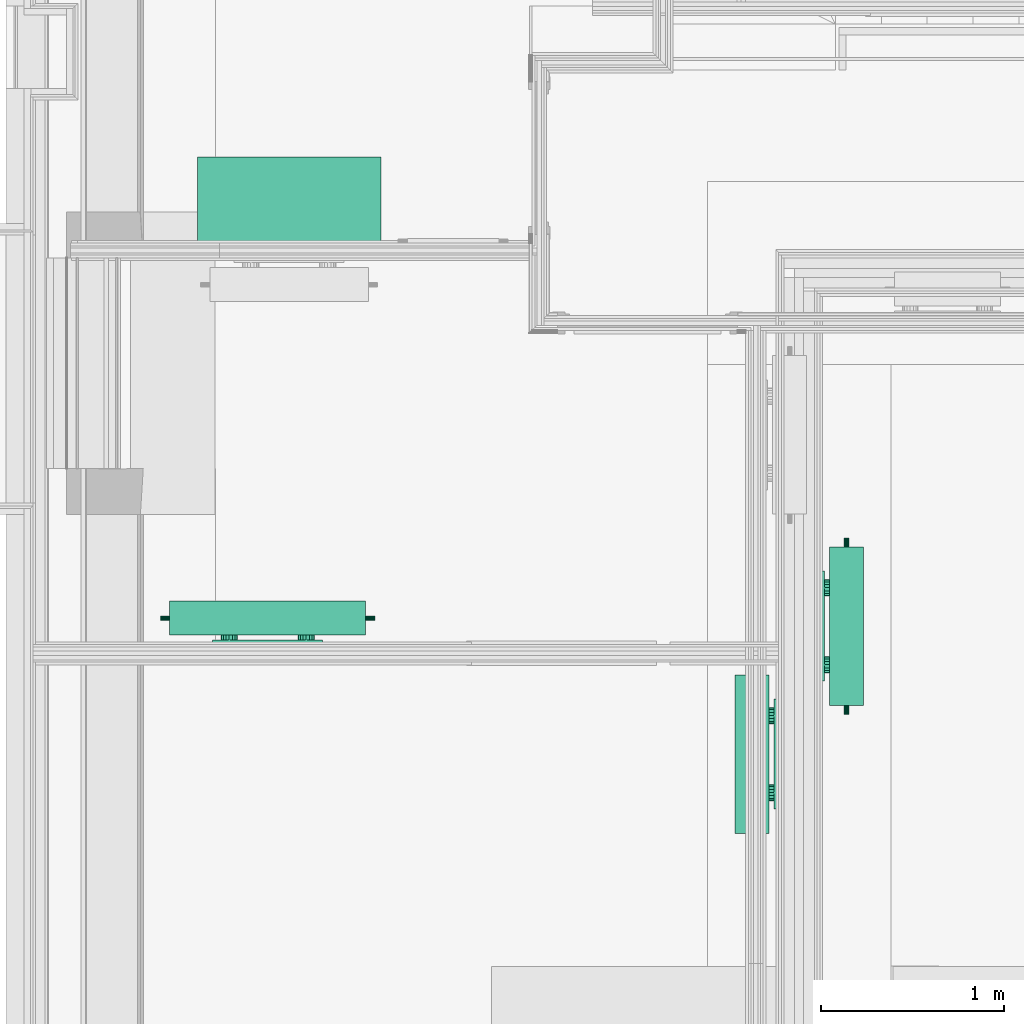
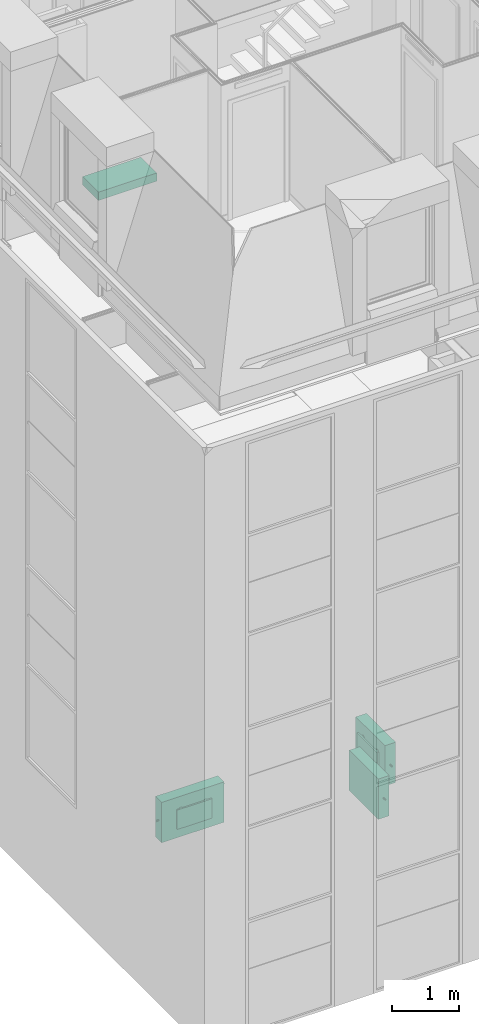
# One storey, part 143 of 169: 4 flow terminals.
"""IFC2X3 building model written with IfcOpenShell, lengths in metres."""

import ifcopenshell
import ifcopenshell.guid

model = None  # the IFC model being written
_history = None  # IfcOwnerHistory: only IFC2X3 demands one
_inside = {}  # id of a spatial element -> (the spatial element, [elements in it])
_under = {}  # id of a project, library or spatial element -> (it, [spatial elements below it])
_declared = {}  # id of a project -> (the project, [libraries it declares])
_typed = {}  # id of a type object -> (the type object, [elements of that type])
_made_of = {}  # id of a material, layer set ... -> (it, [elements and type objects made of it])


def new_model(schema):
    """Start an empty IFC model of exactly this schema.

    Asked for "IFC4X3", IfcOpenShell would pick the latest addendum, in which some entities
    have other attributes; the version numbers below select the first issue.
    IFC2X3 requires an IfcOwnerHistory on every rooted entity: one is made here for all.
    """
    global model, _history
    if schema == "IFC4X3":
        model = ifcopenshell.file(schema_version=(4, 3, 0, 0))
    else:
        model = ifcopenshell.file(schema=schema)
    _inside.clear()
    _under.clear()
    _declared.clear()
    _typed.clear()
    _made_of.clear()
    _history = None
    if model.schema == "IFC2X3":
        org = make("IfcOrganization", Name="unknown")
        user = make(
            "IfcPersonAndOrganization",
            ThePerson=make("IfcPerson", FamilyName="unknown"),
            TheOrganization=org,
        )
        app = make(
            "IfcApplication",
            ApplicationDeveloper=org,
            Version="unknown",
            ApplicationFullName="unknown",
            ApplicationIdentifier="unknown",
        )
        _history = make(
            "IfcOwnerHistory",
            OwningUser=user,
            OwningApplication=app,
            ChangeAction="ADDED",
            CreationDate=0,
        )
    return model


def make(cls, **values):
    """One entity of the class cls with the attributes given. An attribute that is None is left unset."""
    return model.create_entity(
        cls, **{name: value for name, value in values.items() if value is not None}
    )


def entity(cls, *values):
    """Any entity or typed value of the class cls, its attributes in the order of the schema. None: left unset."""
    e = model.create_entity(cls)
    for i, value in enumerate(values):
        if value is not None:
            e[i] = value
    return e


def rooted(cls, **values):
    """An entity with a GlobalId (a new one), such as an element, a storey or a relation."""
    return make(cls, GlobalId=ifcopenshell.guid.new(), OwnerHistory=_history, **values)


def si_unit(unit_type, name, prefix=None):
    """IfcSIUnit, for example si_unit("LENGTHUNIT", "METRE", prefix="MILLI")."""
    return make("IfcSIUnit", UnitType=unit_type, Prefix=prefix, Name=name)


def converted_unit(unit_type, name, factor, base, dimensions=None, offset=None):
    """IfcConversionBasedUnit, such as the inch: factor (a typed value) times the base unit."""
    return make(
        "IfcConversionBasedUnit"
        if offset is None
        else "IfcConversionBasedUnitWithOffset",
        ConversionOffset=offset,
        Dimensions=None
        if dimensions is None
        else entity("IfcDimensionalExponents", *dimensions),
        UnitType=unit_type,
        Name=name,
        ConversionFactor=make(
            "IfcMeasureWithUnit", ValueComponent=factor, UnitComponent=base
        ),
    )


def derived_unit(unit_type, elements):
    """IfcDerivedUnit: a product of units, each with its exponent."""
    return make(
        "IfcDerivedUnit",
        Elements=[
            make("IfcDerivedUnitElement", Unit=unit, Exponent=power)
            for unit, power in elements
        ],
        UnitType=unit_type,
    )


def money_unit(currency):
    """IfcMonetaryUnit."""
    return make("IfcMonetaryUnit", Currency=currency)


def assignment(units):
    """IfcUnitAssignment: the units of a project."""
    return None if units is None else make("IfcUnitAssignment", Units=units)


def point(xyz):
    """IfcCartesianPoint."""
    return None if xyz is None else make("IfcCartesianPoint", Coordinates=xyz)


def direction(xyz):
    """IfcDirection."""
    return None if xyz is None else make("IfcDirection", DirectionRatios=xyz)


def frame(location, z_axis=None, x_axis=None):
    """IfcAxis2Placement3D, a coordinate frame: its origin and axes. An axis left out is left unset."""
    return make(
        "IfcAxis2Placement3D",
        Location=point(location),
        Axis=direction(z_axis),
        RefDirection=direction(x_axis),
    )


def origin_with_axes():
    """The frame at (0, 0, 0) with the z axis (0, 0, 1) and the x axis (1, 0, 0) written out."""
    return frame((0.0, 0.0, 0.0), z_axis=(0.0, 0.0, 1.0), x_axis=(1.0, 0.0, 0.0))


def place(relative_to, where):
    """IfcLocalPlacement: puts the frame where relative to a parent placement (None: the world)."""
    return make(
        "IfcLocalPlacement", PlacementRelTo=relative_to, RelativePlacement=where
    )


def context(
    kind, dimensions, precision=None, world=None, true_north=None, identifier=None
):
    """IfcGeometricRepresentationContext, for example the 3D "Model" context."""
    return make(
        "IfcGeometricRepresentationContext",
        ContextIdentifier=identifier,
        ContextType=kind,
        CoordinateSpaceDimension=dimensions,
        Precision=precision,
        WorldCoordinateSystem=world,
        TrueNorth=true_north,
    )


def subcontext(parent, identifier, kind, view, scale=None):
    """IfcGeometricRepresentationSubContext, for example "Body" below "Model"."""
    return make(
        "IfcGeometricRepresentationSubContext",
        ContextIdentifier=identifier,
        ContextType=kind,
        ParentContext=parent,
        TargetScale=scale,
        TargetView=view,
    )


def project(units=None, contexts=None):
    """IfcProject with its units and contexts."""
    return rooted(
        "IfcProject",
        Name="project",
        RepresentationContexts=contexts,
        UnitsInContext=assignment(units),
    )


def spatial(cls, under=None, at=None, **own):
    """A site, building, storey or space (cls), placed at a placement, below another one or the project."""
    s = rooted(cls, ObjectPlacement=at, **own)
    if under is not None:
        _under.setdefault(under.id(), (under, []))[1].append(s)
    return s


def faces_of(points, faces, orient=None, outer=None):
    """IfcFace entities. A face is a list of loops; a loop is a list of indices into points, from 0.

    orient and outer hold one flag for each loop. By default every Orientation is true, the
    first loop of a face is its IfcFaceOuterBound and the others are IfcFaceBound.
    """
    made = []
    for i, loops in enumerate(faces):
        bounds = []
        for j, loop in enumerate(loops):
            is_outer = j == 0 if outer is None else outer[i][j]
            bounds.append(
                make(
                    "IfcFaceOuterBound" if is_outer else "IfcFaceBound",
                    Bound=make("IfcPolyLoop", Polygon=[points[k] for k in loop]),
                    Orientation=True if orient is None else orient[i][j],
                )
            )
        made.append(make("IfcFace", Bounds=bounds))
    return made


def open_shell(faces, orient=None, outer=None):
    """The faces of one IfcOpenShell. surface_model builds it on its shared points."""
    return ("IfcOpenShell", faces, orient, outer)


def faceted_brep(points, faces, orient=None, outer=None, voids=None):
    """IfcFacetedBrep: a solid bounded by flat faces; with voids (closed shells), ...WithVoids."""
    shared = [point(p) for p in points]
    hull = make("IfcClosedShell", CfsFaces=faces_of(shared, faces, orient, outer))
    if voids is None:
        return make("IfcFacetedBrep", Outer=hull)
    return make(
        "IfcFacetedBrepWithVoids",
        Outer=hull,
        Voids=[
            make(cls, CfsFaces=faces_of(shared, fs, o, b)) for cls, fs, o, b in voids
        ],
    )


def surface_model(cls, points, shells):
    """IfcFaceBasedSurfaceModel or IfcShellBasedSurfaceModel (cls): surfaces that need not close."""
    shared = [point(p) for p in points]
    made = [make(c, CfsFaces=faces_of(shared, fs, o, b)) for c, fs, o, b in shells]
    if cls == "IfcFaceBasedSurfaceModel":
        return make(cls, FbsmFaces=made)
    return make(cls, SbsmBoundary=made)


def shape(context_of_items, identifier, shape_type, items):
    """IfcShapeRepresentation: the items that make up one representation, for example the "Body"."""
    return make(
        "IfcShapeRepresentation",
        ContextOfItems=context_of_items,
        RepresentationIdentifier=identifier,
        RepresentationType=shape_type,
        Items=items,
    )


def material(Name=None, Category=None):
    """IfcMaterial."""
    return make("IfcMaterial", Name=Name, Category=Category)


def made_of(thing, what):
    """Note that an element or type object is made of a material, layer set ...; save() writes the relation."""
    if what is not None:
        _made_of.setdefault(what.id(), (what, []))[1].append(thing)
    return thing


def type_object(cls, material=None, **own):
    """A type object (cls), such as IfcWallType, which elements share."""
    return made_of(rooted(cls, **own), material)


def element(
    cls,
    number,
    at=None,
    inside=None,
    cuts=None,
    type_object=None,
    material=None,
    context=None,
    identifier="Body",
    shape_type=None,
    held_by="IfcProductDefinitionShape",
    body=None,
    shapes=None,
    **own,
):
    """One element of the class cls, such as IfcWall. Its Tag is "e" and its number.

    at: its placement. inside: the storey or other place that contains it. cuts: it is an
    opening in that element (IfcRelVoidsElement). A single representation is given by context,
    identifier, shape_type and body (its items); several are given by shapes. held_by: the class
    of the entity that holds the representations. save() writes the other relations.
    """
    e = rooted(cls, Tag="e%d" % number, ObjectPlacement=at, **own)
    if body is not None:
        shapes = [shape(context, identifier, shape_type, body)]
    if shapes is not None:
        e.Representation = make(held_by, Representations=shapes)
    if inside is not None:
        _inside.setdefault(inside.id(), (inside, []))[1].append(e)
    if cuts is not None:
        rooted(
            "IfcRelVoidsElement", RelatingBuildingElement=cuts, RelatedOpeningElement=e
        )
    if type_object is not None:
        _typed.setdefault(type_object.id(), (type_object, []))[1].append(e)
    return made_of(e, material)


def aggregate(whole, parts):
    """IfcRelAggregates: a whole, such as a stair, and the parts it consists of."""
    return rooted("IfcRelAggregates", RelatingObject=whole, RelatedObjects=parts)


def save(model, path):
    """Write the relations noted so far, then the file.

    IfcRelAggregates (storeys below a building ...), IfcRelContainedInSpatialStructure (elements
    in a storey), IfcRelDefinesByType, IfcRelAssociatesMaterial and IfcRelDeclares: one each for
    every whole, place, type object, material and project.
    """
    for whole, parts in _under.values():
        aggregate(whole, parts)
    for where, things in _inside.values():
        rooted(
            "IfcRelContainedInSpatialStructure",
            RelatedElements=things,
            RelatingStructure=where,
        )
    for kind, things in _typed.values():
        rooted("IfcRelDefinesByType", RelatedObjects=things, RelatingType=kind)
    for what, things in _made_of.values():
        rooted("IfcRelAssociatesMaterial", RelatedObjects=things, RelatingMaterial=what)
    for by, libraries in _declared.values():
        rooted("IfcRelDeclares", RelatingContext=by, RelatedDefinitions=libraries)
    model.write(path)


model = new_model("IFC2X3")

# Units and contexts
model_context = context("Model", 3, precision=1e-05, world=origin_with_axes(), true_north=direction((0.0, 1.0)))
body_context = subcontext(model_context, "Body", "Model", "MODEL_VIEW", scale=1.0)
ifc_project = project(units=[si_unit("LENGTHUNIT", "METRE"), si_unit("AREAUNIT", "SQUARE_METRE"), si_unit("VOLUMEUNIT", "CUBIC_METRE"), si_unit("ABSORBEDDOSEUNIT", "GRAY"), si_unit("AMOUNTOFSUBSTANCEUNIT", "MOLE"), si_unit("DOSEEQUIVALENTUNIT", "SIEVERT"), si_unit("ELECTRICCAPACITANCEUNIT", "FARAD"), si_unit("ELECTRICCHARGEUNIT", "COULOMB"), si_unit("ELECTRICCONDUCTANCEUNIT", "SIEMENS"), si_unit("ELECTRICCURRENTUNIT", "AMPERE"), si_unit("ELECTRICRESISTANCEUNIT", "OHM"), si_unit("ELECTRICVOLTAGEUNIT", "VOLT"), si_unit("ENERGYUNIT", "JOULE"), si_unit("FORCEUNIT", "NEWTON"), si_unit("FREQUENCYUNIT", "HERTZ"), si_unit("ILLUMINANCEUNIT", "LUX"), si_unit("INDUCTANCEUNIT", "HENRY"), si_unit("LUMINOUSFLUXUNIT", "LUMEN"), si_unit("LUMINOUSINTENSITYUNIT", "CANDELA"), si_unit("MAGNETICFLUXDENSITYUNIT", "TESLA"), si_unit("MAGNETICFLUXUNIT", "WEBER"), si_unit("MASSUNIT", "GRAM"), converted_unit("PLANEANGLEUNIT", "degree", entity("IfcReal", 0.0174532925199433), si_unit("PLANEANGLEUNIT", "RADIAN"), dimensions=[0, 0, 0, 0, 0, 0, 0]), si_unit("POWERUNIT", "WATT"), si_unit("PRESSUREUNIT", "PASCAL"), si_unit("RADIOACTIVITYUNIT", "BECQUEREL"), si_unit("SOLIDANGLEUNIT", "STERADIAN"), si_unit("THERMODYNAMICTEMPERATUREUNIT", "KELVIN"), si_unit("TIMEUNIT", "SECOND"), derived_unit("ACCELERATIONUNIT", [(si_unit("LENGTHUNIT", "METRE"), 1), (si_unit("TIMEUNIT", "SECOND"), -2)]), derived_unit("ANGULARVELOCITYUNIT", [(converted_unit("PLANEANGLEUNIT", "degree", entity("IfcReal", 0.0174532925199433), si_unit("PLANEANGLEUNIT", "RADIAN"), dimensions=[0, 0, 0, 0, 0, 0, 0]), 1), (si_unit("TIMEUNIT", "SECOND"), -1)]), derived_unit("CURVATUREUNIT", [(converted_unit("PLANEANGLEUNIT", "degree", entity("IfcReal", 0.0174532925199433), si_unit("PLANEANGLEUNIT", "RADIAN"), dimensions=[0, 0, 0, 0, 0, 0, 0]), 1), (si_unit("LENGTHUNIT", "METRE"), -1)]), derived_unit("DYNAMICVISCOSITYUNIT", [(si_unit("PRESSUREUNIT", "PASCAL"), 1), (si_unit("TIMEUNIT", "SECOND"), 1)]), derived_unit("HEATFLUXDENSITYUNIT", [(si_unit("POWERUNIT", "WATT"), 1), (si_unit("LENGTHUNIT", "METRE"), -2)]), derived_unit("HEATINGVALUEUNIT", [(si_unit("ENERGYUNIT", "JOULE"), 1), (si_unit("MASSUNIT", "GRAM"), -1)]), derived_unit("INTEGERCOUNTRATEUNIT", [(si_unit("TIMEUNIT", "SECOND"), -1)]), derived_unit("IONCONCENTRATIONUNIT", [(si_unit("MASSUNIT", "GRAM"), 1), (si_unit("VOLUMEUNIT", "CUBIC_METRE"), -1)]), derived_unit("ISOTHERMALMOISTURECAPACITYUNIT", [(si_unit("VOLUMEUNIT", "CUBIC_METRE"), 1), (si_unit("MASSUNIT", "GRAM"), -1)]), derived_unit("KINEMATICVISCOSITYUNIT", [(si_unit("AREAUNIT", "SQUARE_METRE"), 1), (si_unit("TIMEUNIT", "SECOND"), -1)]), derived_unit("LINEARFORCEUNIT", [(si_unit("FORCEUNIT", "NEWTON"), 1), (si_unit("LENGTHUNIT", "METRE"), -1)]), derived_unit("LINEARMOMENTUNIT", [(si_unit("FORCEUNIT", "NEWTON"), 1), (si_unit("LENGTHUNIT", "METRE"), -1)]), derived_unit("LINEARSTIFFNESSUNIT", [(si_unit("FORCEUNIT", "NEWTON"), 1), (si_unit("LENGTHUNIT", "METRE"), -1)]), derived_unit("LINEARVELOCITYUNIT", [(si_unit("LENGTHUNIT", "METRE"), 1), (si_unit("TIMEUNIT", "SECOND"), -1)]), derived_unit("LUMINOUSINTENSITYDISTRIBUTIONUNIT", [(si_unit("LUMINOUSINTENSITYUNIT", "CANDELA"), 1), (si_unit("LUMINOUSFLUXUNIT", "LUMEN"), -1)]), derived_unit("MASSDENSITYUNIT", [(si_unit("MASSUNIT", "GRAM"), 1), (si_unit("VOLUMEUNIT", "CUBIC_METRE"), -1)]), derived_unit("MASSFLOWRATEUNIT", [(si_unit("MASSUNIT", "GRAM"), 1), (si_unit("TIMEUNIT", "SECOND"), -1)]), derived_unit("MASSPERLENGTHUNIT", [(si_unit("MASSUNIT", "GRAM"), 1), (si_unit("LENGTHUNIT", "METRE"), -1)]), derived_unit("MODULUSOFELASTICITYUNIT", [(si_unit("FORCEUNIT", "NEWTON"), 1), (si_unit("AREAUNIT", "SQUARE_METRE"), -1)]), derived_unit("MODULUSOFLINEARSUBGRADEREACTIONUNIT", [(si_unit("FORCEUNIT", "NEWTON"), 1), (si_unit("LENGTHUNIT", "METRE"), -2)]), derived_unit("MODULUSOFROTATIONALSUBGRADEREACTIONUNIT", [(si_unit("FORCEUNIT", "NEWTON"), 1), (si_unit("LENGTHUNIT", "METRE"), 1)]), derived_unit("MODULUSOFSUBGRADEREACTIONUNIT", [(si_unit("FORCEUNIT", "NEWTON"), 1), (si_unit("VOLUMEUNIT", "CUBIC_METRE"), -1)]), derived_unit("MOISTUREDIFFUSIVITYUNIT", [(si_unit("VOLUMEUNIT", "CUBIC_METRE"), 1), (si_unit("TIMEUNIT", "SECOND"), -1)]), derived_unit("MOLECULARWEIGHTUNIT", [(si_unit("MASSUNIT", "GRAM"), 1), (si_unit("AMOUNTOFSUBSTANCEUNIT", "MOLE"), -1)]), derived_unit("PLANARFORCEUNIT", [(si_unit("FORCEUNIT", "NEWTON"), 1), (si_unit("LENGTHUNIT", "METRE"), -2)]), derived_unit("ROTATIONALFREQUENCYUNIT", [(si_unit("TIMEUNIT", "SECOND"), -1)]), derived_unit("ROTATIONALMASSUNIT", [(si_unit("MASSUNIT", "GRAM"), 1), (si_unit("LENGTHUNIT", "METRE"), 2)]), derived_unit("ROTATIONALSTIFFNESSUNIT", [(si_unit("FORCEUNIT", "NEWTON"), 1), (si_unit("LENGTHUNIT", "METRE"), 1), (converted_unit("PLANEANGLEUNIT", "degree", entity("IfcReal", 0.0174532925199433), si_unit("PLANEANGLEUNIT", "RADIAN"), dimensions=[0, 0, 0, 0, 0, 0, 0]), -1)]), derived_unit("SECTIONAREAINTEGRALUNIT", [(si_unit("LENGTHUNIT", "METRE"), 5)]), derived_unit("SECTIONMODULUSUNIT", [(si_unit("LENGTHUNIT", "METRE"), 3)]), derived_unit("SHEARMODULUSUNIT", [(si_unit("FORCEUNIT", "NEWTON"), 1), (si_unit("AREAUNIT", "SQUARE_METRE"), -1)]), derived_unit("SOUNDPOWERUNIT", [(si_unit("ENERGYUNIT", "JOULE"), 1), (si_unit("TIMEUNIT", "SECOND"), -1)]), derived_unit("SPECIFICHEATCAPACITYUNIT", [(si_unit("FORCEUNIT", "NEWTON"), 1), (si_unit("MASSUNIT", "GRAM"), -1), (si_unit("THERMODYNAMICTEMPERATUREUNIT", "KELVIN"), -1)]), derived_unit("TEMPERATUREGRADIENTUNIT", [(si_unit("THERMODYNAMICTEMPERATUREUNIT", "KELVIN"), 1), (si_unit("LENGTHUNIT", "METRE"), -1)]), derived_unit("THERMALADMITTANCEUNIT", [(si_unit("POWERUNIT", "WATT"), 1), (si_unit("AREAUNIT", "SQUARE_METRE"), -1), (si_unit("THERMODYNAMICTEMPERATUREUNIT", "KELVIN"), -1)]), derived_unit("THERMALCONDUCTANCEUNIT", [(si_unit("POWERUNIT", "WATT"), 1), (si_unit("LENGTHUNIT", "METRE"), -1), (si_unit("THERMODYNAMICTEMPERATUREUNIT", "KELVIN"), -1)]), derived_unit("THERMALEXPANSIONCOEFFICIENTUNIT", [(si_unit("THERMODYNAMICTEMPERATUREUNIT", "KELVIN"), -1)]), derived_unit("THERMALRESISTANCEUNIT", [(si_unit("AREAUNIT", "SQUARE_METRE"), 1), (si_unit("POWERUNIT", "WATT"), -1)]), derived_unit("THERMALTRANSMITTANCEUNIT", [(si_unit("POWERUNIT", "WATT"), 1), (si_unit("AREAUNIT", "SQUARE_METRE"), -1), (si_unit("THERMODYNAMICTEMPERATUREUNIT", "KELVIN"), -1)]), derived_unit("TORQUEUNIT", [(si_unit("FORCEUNIT", "NEWTON"), 1), (si_unit("LENGTHUNIT", "METRE"), 1)]), derived_unit("VAPORPERMEABILITYUNIT", [(si_unit("MASSUNIT", "GRAM"), 1), (si_unit("TIMEUNIT", "SECOND"), -1)]), derived_unit("VOLUMETRICFLOWRATEUNIT", [(si_unit("VOLUMEUNIT", "CUBIC_METRE"), 1), (si_unit("TIMEUNIT", "SECOND"), -1)]), derived_unit("WARPINGCONSTANTUNIT", [(si_unit("LENGTHUNIT", "METRE"), 6)]), derived_unit("WARPINGMOMENTUNIT", [(si_unit("FORCEUNIT", "NEWTON"), 1), (si_unit("LENGTHUNIT", "METRE"), 2)]), money_unit("GBP")], contexts=[model_context])

# Site, building, storey, space
site_placement = place(None, origin_with_axes())
site = spatial("IfcSite", under=ifc_project, at=site_placement, Name="Site", CompositionType="ELEMENT")
building_placement = place(site_placement, origin_with_axes())
building = spatial("IfcBuilding", under=site, at=building_placement, Name="Building01", CompositionType="ELEMENT")
storey_placement = place(building_placement, frame((0.0, 0.0, 5.15), z_axis=(0.0, 0.0, 1.0), x_axis=(1.0, 0.0, 0.0)))
storey = spatial("IfcBuildingStorey", under=building, at=storey_placement, Name="1F", CompositionType="ELEMENT", Elevation=5.15)
space_1_placement = place(storey_placement, frame((7.064669, 7.111475, 0.017975), z_axis=(0.0, 0.0, 1.0), x_axis=(-1.0, 0.0, 0.0)))
space_1 = spatial("IfcSpace", under=storey, at=space_1_placement, Name="k/d/l", CompositionType="ELEMENT", InteriorOrExteriorSpace="NOTDEFINED")

# Flow terminal
ifc_material = material(Name="M_BSUK_Ventilation")
space_heater_type = type_object("IfcSpaceHeaterType", Name="M-BmvRadiatorpanel-Panel", PredefinedType="NOTDEFINED")
flow_terminal_1_placement = place(storey_placement, frame((1.063939, 3.210536, 0.665), z_axis=(0.0, 0.0, 1.0), x_axis=(-1.0, 0.0, 0.0)))
element("IfcFlowTerminal", 1, at=flow_terminal_1_placement, inside=space_1, type_object=space_heater_type, material=ifc_material, Name="M-BmvRadiatorpanel-Panel", ObjectType="M-BmvRadiatorpanel-Panel", context=body_context, shape_type="SurfaceModel", body=[
    surface_model("IfcShellBasedSurfaceModel", [(-1.069, -0.0925, 0.365), (-1.069, 0.0925, 0.365), (0.0, 0.0925, 0.365), (0.0, -0.0925, 0.365), (-1.069, -0.0925, -0.365), (-1.069, 0.0925, -0.365), (0.0, -0.0925, -0.365), (0.0, 0.0925, -0.365), (-0.2345, 0.12025, 0.175), (-0.8345, 0.12025, 0.175), (-0.8345, 0.14525, 0.175), (-0.2345, 0.14525, 0.175), (-0.8345, 0.14525, -0.175), (-0.2345, 0.14525, -0.175), (-0.8345, 0.12025, -0.175), (-0.2345, 0.12025, -0.175), (-0.3245, 0.0925, 0.0775), (-0.3245, 0.12025, 0.0775), (-0.307279, 0.12025, 0.080925), (-0.307279, 0.0925, 0.080925), (-0.29268, 0.12025, 0.09068), (-0.29268, 0.0925, 0.09068), (-0.282925, 0.12025, 0.105279), (-0.282925, 0.0925, 0.105279), (-0.2795, 0.12025, 0.1225), (-0.2795, 0.0925, 0.1225), (-0.282925, 0.12025, 0.139721), (-0.282925, 0.0925, 0.139721), (-0.29268, 0.12025, 0.15432), (-0.29268, 0.0925, 0.15432), (-0.307279, 0.12025, 0.164075), (-0.307279, 0.0925, 0.164075), (-0.3245, 0.12025, 0.1675), (-0.3245, 0.0925, 0.1675), (-0.341721, 0.12025, 0.164075), (-0.341721, 0.0925, 0.164075), (-0.35632, 0.12025, 0.15432), (-0.35632, 0.0925, 0.15432), (-0.366075, 0.12025, 0.139721), (-0.366075, 0.0925, 0.139721), (-0.3695, 0.12025, 0.1225), (-0.3695, 0.0925, 0.1225), (-0.366075, 0.12025, 0.105279), (-0.366075, 0.0925, 0.105279), (-0.35632, 0.12025, 0.09068), (-0.35632, 0.0925, 0.09068), (-0.341721, 0.12025, 0.080925), (-0.341721, 0.0925, 0.080925), (-0.7445, 0.0925, 0.0775), (-0.7445, 0.12025, 0.0775), (-0.727279, 0.12025, 0.080925), (-0.727279, 0.0925, 0.080925), (-0.71268, 0.12025, 0.09068), (-0.71268, 0.0925, 0.09068), (-0.702925, 0.12025, 0.105279), (-0.702925, 0.0925, 0.105279), (-0.6995, 0.12025, 0.1225), (-0.6995, 0.0925, 0.1225), (-0.702925, 0.12025, 0.139721), (-0.702925, 0.0925, 0.139721), (-0.71268, 0.12025, 0.15432), (-0.71268, 0.0925, 0.15432), (-0.727279, 0.12025, 0.164075), (-0.727279, 0.0925, 0.164075), (-0.7445, 0.12025, 0.1675), (-0.7445, 0.0925, 0.1675), (-0.761721, 0.12025, 0.164075), (-0.761721, 0.0925, 0.164075), (-0.77632, 0.12025, 0.15432), (-0.77632, 0.0925, 0.15432), (-0.786075, 0.12025, 0.139721), (-0.786075, 0.0925, 0.139721), (-0.7895, 0.12025, 0.1225), (-0.7895, 0.0925, 0.1225), (-0.786075, 0.12025, 0.105279), (-0.786075, 0.0925, 0.105279), (-0.77632, 0.12025, 0.09068), (-0.77632, 0.0925, 0.09068), (-0.761721, 0.12025, 0.080925), (-0.761721, 0.0925, 0.080925), (0.05, 0.0, -0.0225), (0.0, 0.0, -0.0225), (0.0, 0.004784, -0.021548), (0.05, 0.004784, -0.021548), (0.0, 0.008839, -0.018839), (0.05, 0.008839, -0.018839), (0.0, 0.011548, -0.014784), (0.05, 0.011548, -0.014784), (0.0, 0.0125, -0.01), (0.05, 0.0125, -0.01), (0.0, 0.011548, -0.005216), (0.05, 0.011548, -0.005216), (0.0, 0.008839, -0.001161), (0.05, 0.008839, -0.001161), (0.0, 0.004784, 0.001548), (0.05, 0.004784, 0.001548), (0.0, 0.0, 0.0025), (0.05, 0.0, 0.0025), (0.0, -0.004784, 0.001548), (0.05, -0.004784, 0.001548), (0.0, -0.008839, -0.001161), (0.05, -0.008839, -0.001161), (0.0, -0.011548, -0.005216), (0.05, -0.011548, -0.005216), (0.0, -0.0125, -0.01), (0.05, -0.0125, -0.01), (0.0, -0.011548, -0.014784), (0.05, -0.011548, -0.014784), (0.0, -0.008839, -0.018839), (0.05, -0.008839, -0.018839), (0.0, -0.004784, -0.021548), (0.05, -0.004784, -0.021548), (-1.119, 0.0, 0.2525), (-1.069, 0.0, 0.2525), (-1.069, -0.004784, 0.253452), (-1.119, -0.004784, 0.253452), (-1.069, -0.008839, 0.256161), (-1.119, -0.008839, 0.256161), (-1.069, -0.011548, 0.260216), (-1.119, -0.011548, 0.260216), (-1.069, -0.0125, 0.265), (-1.119, -0.0125, 0.265), (-1.069, -0.011548, 0.269784), (-1.119, -0.011548, 0.269784), (-1.069, -0.008839, 0.273839), (-1.119, -0.008839, 0.273839), (-1.069, -0.004784, 0.276548), (-1.119, -0.004784, 0.276548), (-1.069, 0.0, 0.2775), (-1.119, 0.0, 0.2775), (-1.069, 0.004784, 0.276548), (-1.119, 0.004784, 0.276548), (-1.069, 0.008839, 0.273839), (-1.119, 0.008839, 0.273839), (-1.069, 0.011548, 0.269784), (-1.119, 0.011548, 0.269784), (-1.069, 0.0125, 0.265), (-1.119, 0.0125, 0.265), (-1.069, 0.011548, 0.260216), (-1.119, 0.011548, 0.260216), (-1.069, 0.008839, 0.256161), (-1.119, 0.008839, 0.256161), (-1.069, 0.004784, 0.253452), (-1.119, 0.004784, 0.253452)], [open_shell([[[0, 1, 2, 3]], [[4, 5, 1, 0]], [[6, 7, 5, 4]], [[3, 2, 7, 6]], [[1, 5, 7, 2]], [[3, 6, 4, 0]], [[8, 9, 10, 11]], [[11, 10, 12, 13]], [[13, 12, 14, 15]], [[15, 14, 9, 8]], [[9, 14, 12, 10]], [[11, 13, 15, 8]], [[16, 17, 18, 19]], [[19, 18, 20, 21]], [[21, 20, 22, 23]], [[23, 22, 24, 25]], [[25, 24, 26, 27]], [[27, 26, 28, 29]], [[29, 28, 30, 31]], [[31, 30, 32, 33]], [[33, 32, 34, 35]], [[35, 34, 36, 37]], [[37, 36, 38, 39]], [[39, 38, 40, 41]], [[41, 40, 42, 43]], [[43, 42, 44, 45]], [[45, 44, 46, 47]], [[47, 46, 17, 16]], [[48, 49, 50, 51]], [[51, 50, 52, 53]], [[53, 52, 54, 55]], [[55, 54, 56, 57]], [[57, 56, 58, 59]], [[59, 58, 60, 61]], [[61, 60, 62, 63]], [[63, 62, 64, 65]], [[65, 64, 66, 67]], [[67, 66, 68, 69]], [[69, 68, 70, 71]], [[71, 70, 72, 73]], [[73, 72, 74, 75]], [[75, 74, 76, 77]], [[77, 76, 78, 79]], [[79, 78, 49, 48]], [[80, 81, 82, 83]], [[83, 82, 84, 85]], [[85, 84, 86, 87]], [[87, 86, 88, 89]], [[89, 88, 90, 91]], [[91, 90, 92, 93]], [[93, 92, 94, 95]], [[95, 94, 96, 97]], [[97, 96, 98, 99]], [[99, 98, 100, 101]], [[101, 100, 102, 103]], [[103, 102, 104, 105]], [[105, 104, 106, 107]], [[107, 106, 108, 109]], [[109, 108, 110, 111]], [[111, 110, 81, 80]], [[112, 113, 114, 115]], [[115, 114, 116, 117]], [[117, 116, 118, 119]], [[119, 118, 120, 121]], [[121, 120, 122, 123]], [[123, 122, 124, 125]], [[125, 124, 126, 127]], [[127, 126, 128, 129]], [[129, 128, 130, 131]], [[131, 130, 132, 133]], [[133, 132, 134, 135]], [[135, 134, 136, 137]], [[137, 136, 138, 139]], [[139, 138, 140, 141]], [[141, 140, 142, 143]], [[143, 142, 113, 112]]])]),
])

# Space
space_2_placement = place(storey_placement, frame((0.318, 8.21067, 0.017975), z_axis=(0.0, 0.0, 1.0), x_axis=(0.0, -1.0, 0.0)))
space_2 = spatial("IfcSpace", under=storey, at=space_2_placement, Name="06", CompositionType="ELEMENT", InteriorOrExteriorSpace="NOTDEFINED")

# Flow terminal
flow_terminal_2_placement = place(storey_placement, frame((4.23975, 2.036286, 0.665), z_axis=(0.0, 0.0, 1.0), x_axis=(0.0, -1.0, 0.0)))
element("IfcFlowTerminal", 2, at=flow_terminal_2_placement, inside=space_2, type_object=space_heater_type, material=ifc_material, Name="M-BmvRadiatorpanel-Panel", ObjectType="M-BmvRadiatorpanel-Panel", context=body_context, shape_type="SurfaceModel", body=[
    surface_model("IfcShellBasedSurfaceModel", [(-0.865, -0.0925, 0.365), (-0.865, 0.0925, 0.365), (0.0, 0.0925, 0.365), (0.0, -0.0925, 0.365), (-0.865, -0.0925, -0.365), (-0.865, 0.0925, -0.365), (0.0, -0.0925, -0.365), (0.0, 0.0925, -0.365), (-0.1325, 0.12025, 0.175), (-0.7325, 0.12025, 0.175), (-0.7325, 0.14525, 0.175), (-0.1325, 0.14525, 0.175), (-0.7325, 0.14525, -0.175), (-0.1325, 0.14525, -0.175), (-0.7325, 0.12025, -0.175), (-0.1325, 0.12025, -0.175), (-0.2225, 0.0925, 0.0775), (-0.2225, 0.12025, 0.0775), (-0.205279, 0.12025, 0.080925), (-0.205279, 0.0925, 0.080925), (-0.19068, 0.12025, 0.09068), (-0.19068, 0.0925, 0.09068), (-0.180925, 0.12025, 0.105279), (-0.180925, 0.0925, 0.105279), (-0.1775, 0.12025, 0.1225), (-0.1775, 0.0925, 0.1225), (-0.180925, 0.12025, 0.139721), (-0.180925, 0.0925, 0.139721), (-0.19068, 0.12025, 0.15432), (-0.19068, 0.0925, 0.15432), (-0.205279, 0.12025, 0.164075), (-0.205279, 0.0925, 0.164075), (-0.2225, 0.12025, 0.1675), (-0.2225, 0.0925, 0.1675), (-0.239721, 0.12025, 0.164075), (-0.239721, 0.0925, 0.164075), (-0.25432, 0.12025, 0.15432), (-0.25432, 0.0925, 0.15432), (-0.264075, 0.12025, 0.139721), (-0.264075, 0.0925, 0.139721), (-0.2675, 0.12025, 0.1225), (-0.2675, 0.0925, 0.1225), (-0.264075, 0.12025, 0.105279), (-0.264075, 0.0925, 0.105279), (-0.25432, 0.12025, 0.09068), (-0.25432, 0.0925, 0.09068), (-0.239721, 0.12025, 0.080925), (-0.239721, 0.0925, 0.080925), (-0.6425, 0.0925, 0.0775), (-0.6425, 0.12025, 0.0775), (-0.625279, 0.12025, 0.080925), (-0.625279, 0.0925, 0.080925), (-0.61068, 0.12025, 0.09068), (-0.61068, 0.0925, 0.09068), (-0.600925, 0.12025, 0.105279), (-0.600925, 0.0925, 0.105279), (-0.5975, 0.12025, 0.1225), (-0.5975, 0.0925, 0.1225), (-0.600925, 0.12025, 0.139721), (-0.600925, 0.0925, 0.139721), (-0.61068, 0.12025, 0.15432), (-0.61068, 0.0925, 0.15432), (-0.625279, 0.12025, 0.164075), (-0.625279, 0.0925, 0.164075), (-0.6425, 0.12025, 0.1675), (-0.6425, 0.0925, 0.1675), (-0.659721, 0.12025, 0.164075), (-0.659721, 0.0925, 0.164075), (-0.67432, 0.12025, 0.15432), (-0.67432, 0.0925, 0.15432), (-0.684075, 0.12025, 0.139721), (-0.684075, 0.0925, 0.139721), (-0.6875, 0.12025, 0.1225), (-0.6875, 0.0925, 0.1225), (-0.684075, 0.12025, 0.105279), (-0.684075, 0.0925, 0.105279), (-0.67432, 0.12025, 0.09068), (-0.67432, 0.0925, 0.09068), (-0.659721, 0.12025, 0.080925), (-0.659721, 0.0925, 0.080925), (0.05, 0.0, -0.0225), (0.0, 0.0, -0.0225), (0.0, 0.004784, -0.021548), (0.05, 0.004784, -0.021548), (0.0, 0.008839, -0.018839), (0.05, 0.008839, -0.018839), (0.0, 0.011548, -0.014784), (0.05, 0.011548, -0.014784), (0.0, 0.0125, -0.01), (0.05, 0.0125, -0.01), (0.0, 0.011548, -0.005216), (0.05, 0.011548, -0.005216), (0.0, 0.008839, -0.001161), (0.05, 0.008839, -0.001161), (0.0, 0.004784, 0.001548), (0.05, 0.004784, 0.001548), (0.0, 0.0, 0.0025), (0.05, 0.0, 0.0025), (0.0, -0.004784, 0.001548), (0.05, -0.004784, 0.001548), (0.0, -0.008839, -0.001161), (0.05, -0.008839, -0.001161), (0.0, -0.011548, -0.005216), (0.05, -0.011548, -0.005216), (0.0, -0.0125, -0.01), (0.05, -0.0125, -0.01), (0.0, -0.011548, -0.014784), (0.05, -0.011548, -0.014784), (0.0, -0.008839, -0.018839), (0.05, -0.008839, -0.018839), (0.0, -0.004784, -0.021548), (0.05, -0.004784, -0.021548), (-0.915, 0.0, 0.2525), (-0.865, 0.0, 0.2525), (-0.865, -0.004784, 0.253452), (-0.915, -0.004784, 0.253452), (-0.865, -0.008839, 0.256161), (-0.915, -0.008839, 0.256161), (-0.865, -0.011548, 0.260216), (-0.915, -0.011548, 0.260216), (-0.865, -0.0125, 0.265), (-0.915, -0.0125, 0.265), (-0.865, -0.011548, 0.269784), (-0.915, -0.011548, 0.269784), (-0.865, -0.008839, 0.273839), (-0.915, -0.008839, 0.273839), (-0.865, -0.004784, 0.276548), (-0.915, -0.004784, 0.276548), (-0.865, 0.0, 0.2775), (-0.915, 0.0, 0.2775), (-0.865, 0.004784, 0.276548), (-0.915, 0.004784, 0.276548), (-0.865, 0.008839, 0.273839), (-0.915, 0.008839, 0.273839), (-0.865, 0.011548, 0.269784), (-0.915, 0.011548, 0.269784), (-0.865, 0.0125, 0.265), (-0.915, 0.0125, 0.265), (-0.865, 0.011548, 0.260216), (-0.915, 0.011548, 0.260216), (-0.865, 0.008839, 0.256161), (-0.915, 0.008839, 0.256161), (-0.865, 0.004784, 0.253452), (-0.915, 0.004784, 0.253452)], [open_shell([[[0, 1, 2, 3]], [[4, 5, 1, 0]], [[6, 7, 5, 4]], [[3, 2, 7, 6]], [[1, 5, 7, 2]], [[3, 6, 4, 0]], [[8, 9, 10, 11]], [[11, 10, 12, 13]], [[13, 12, 14, 15]], [[15, 14, 9, 8]], [[9, 14, 12, 10]], [[11, 13, 15, 8]], [[16, 17, 18, 19]], [[19, 18, 20, 21]], [[21, 20, 22, 23]], [[23, 22, 24, 25]], [[25, 24, 26, 27]], [[27, 26, 28, 29]], [[29, 28, 30, 31]], [[31, 30, 32, 33]], [[33, 32, 34, 35]], [[35, 34, 36, 37]], [[37, 36, 38, 39]], [[39, 38, 40, 41]], [[41, 40, 42, 43]], [[43, 42, 44, 45]], [[45, 44, 46, 47]], [[47, 46, 17, 16]], [[48, 49, 50, 51]], [[51, 50, 52, 53]], [[53, 52, 54, 55]], [[55, 54, 56, 57]], [[57, 56, 58, 59]], [[59, 58, 60, 61]], [[61, 60, 62, 63]], [[63, 62, 64, 65]], [[65, 64, 66, 67]], [[67, 66, 68, 69]], [[69, 68, 70, 71]], [[71, 70, 72, 73]], [[73, 72, 74, 75]], [[75, 74, 76, 77]], [[77, 76, 78, 79]], [[79, 78, 49, 48]], [[80, 81, 82, 83]], [[83, 82, 84, 85]], [[85, 84, 86, 87]], [[87, 86, 88, 89]], [[89, 88, 90, 91]], [[91, 90, 92, 93]], [[93, 92, 94, 95]], [[95, 94, 96, 97]], [[97, 96, 98, 99]], [[99, 98, 100, 101]], [[101, 100, 102, 103]], [[103, 102, 104, 105]], [[105, 104, 106, 107]], [[107, 106, 108, 109]], [[109, 108, 110, 111]], [[111, 110, 81, 80]], [[112, 113, 114, 115]], [[115, 114, 116, 117]], [[117, 116, 118, 119]], [[119, 118, 120, 121]], [[121, 120, 122, 123]], [[123, 122, 124, 125]], [[125, 124, 126, 127]], [[127, 126, 128, 129]], [[129, 128, 130, 131]], [[131, 130, 132, 133]], [[133, 132, 134, 135]], [[135, 134, 136, 137]], [[137, 136, 138, 139]], [[139, 138, 140, 141]], [[141, 140, 142, 143]], [[143, 142, 113, 112]]])]),
])

# Space
space_3_placement = place(storey_placement, frame((4.61, 4.98, 0.017975), z_axis=(0.0, 0.0, 1.0), x_axis=(0.0, -1.0, 0.0)))
space_3 = spatial("IfcSpace", under=storey, at=space_3_placement, Name="bed", CompositionType="ELEMENT", InteriorOrExteriorSpace="NOTDEFINED")

# Flow terminal
flow_terminal_3_placement = place(storey_placement, frame((4.75525, 2.7335, 0.665), z_axis=(0.0, 0.0, 1.0), x_axis=(0.0, 1.0, 0.0)))
element("IfcFlowTerminal", 3, at=flow_terminal_3_placement, inside=space_3, type_object=space_heater_type, material=ifc_material, Name="M-BmvRadiatorpanel-Panel", ObjectType="M-BmvRadiatorpanel-Panel", context=body_context, shape_type="SurfaceModel", body=[
    surface_model("IfcShellBasedSurfaceModel", [(0.865, -0.0925, 0.365), (0.865, 0.0925, 0.365), (0.0, 0.0925, 0.365), (0.0, -0.0925, 0.365), (0.865, -0.0925, -0.365), (0.865, 0.0925, -0.365), (0.0, -0.0925, -0.365), (0.0, 0.0925, -0.365), (0.1325, 0.12025, 0.175), (0.7325, 0.12025, 0.175), (0.7325, 0.14525, 0.175), (0.1325, 0.14525, 0.175), (0.7325, 0.14525, -0.175), (0.1325, 0.14525, -0.175), (0.7325, 0.12025, -0.175), (0.1325, 0.12025, -0.175), (0.2225, 0.0925, 0.0775), (0.2225, 0.12025, 0.0775), (0.239721, 0.12025, 0.080925), (0.239721, 0.0925, 0.080925), (0.25432, 0.12025, 0.09068), (0.25432, 0.0925, 0.09068), (0.264075, 0.12025, 0.105279), (0.264075, 0.0925, 0.105279), (0.2675, 0.12025, 0.1225), (0.2675, 0.0925, 0.1225), (0.264075, 0.12025, 0.139721), (0.264075, 0.0925, 0.139721), (0.25432, 0.12025, 0.15432), (0.25432, 0.0925, 0.15432), (0.239721, 0.12025, 0.164075), (0.239721, 0.0925, 0.164075), (0.2225, 0.12025, 0.1675), (0.2225, 0.0925, 0.1675), (0.205279, 0.12025, 0.164075), (0.205279, 0.0925, 0.164075), (0.19068, 0.12025, 0.15432), (0.19068, 0.0925, 0.15432), (0.180925, 0.12025, 0.139721), (0.180925, 0.0925, 0.139721), (0.1775, 0.12025, 0.1225), (0.1775, 0.0925, 0.1225), (0.180925, 0.12025, 0.105279), (0.180925, 0.0925, 0.105279), (0.19068, 0.12025, 0.09068), (0.19068, 0.0925, 0.09068), (0.205279, 0.12025, 0.080925), (0.205279, 0.0925, 0.080925), (0.6425, 0.0925, 0.0775), (0.6425, 0.12025, 0.0775), (0.659721, 0.12025, 0.080925), (0.659721, 0.0925, 0.080925), (0.67432, 0.12025, 0.09068), (0.67432, 0.0925, 0.09068), (0.684075, 0.12025, 0.105279), (0.684075, 0.0925, 0.105279), (0.6875, 0.12025, 0.1225), (0.6875, 0.0925, 0.1225), (0.684075, 0.12025, 0.139721), (0.684075, 0.0925, 0.139721), (0.67432, 0.12025, 0.15432), (0.67432, 0.0925, 0.15432), (0.659721, 0.12025, 0.164075), (0.659721, 0.0925, 0.164075), (0.6425, 0.12025, 0.1675), (0.6425, 0.0925, 0.1675), (0.625279, 0.12025, 0.164075), (0.625279, 0.0925, 0.164075), (0.61068, 0.12025, 0.15432), (0.61068, 0.0925, 0.15432), (0.600925, 0.12025, 0.139721), (0.600925, 0.0925, 0.139721), (0.5975, 0.12025, 0.1225), (0.5975, 0.0925, 0.1225), (0.600925, 0.12025, 0.105279), (0.600925, 0.0925, 0.105279), (0.61068, 0.12025, 0.09068), (0.61068, 0.0925, 0.09068), (0.625279, 0.12025, 0.080925), (0.625279, 0.0925, 0.080925), (-0.05, 0.0, -0.0225), (0.0, 0.0, -0.0225), (0.0, -0.004784, -0.021548), (-0.05, -0.004784, -0.021548), (0.0, -0.008839, -0.018839), (-0.05, -0.008839, -0.018839), (0.0, -0.011548, -0.014784), (-0.05, -0.011548, -0.014784), (0.0, -0.0125, -0.01), (-0.05, -0.0125, -0.01), (0.0, -0.011548, -0.005216), (-0.05, -0.011548, -0.005216), (0.0, -0.008839, -0.001161), (-0.05, -0.008839, -0.001161), (0.0, -0.004784, 0.001548), (-0.05, -0.004784, 0.001548), (0.0, 0.0, 0.0025), (-0.05, 0.0, 0.0025), (0.0, 0.004784, 0.001548), (-0.05, 0.004784, 0.001548), (0.0, 0.008839, -0.001161), (-0.05, 0.008839, -0.001161), (0.0, 0.011548, -0.005216), (-0.05, 0.011548, -0.005216), (0.0, 0.0125, -0.01), (-0.05, 0.0125, -0.01), (0.0, 0.011548, -0.014784), (-0.05, 0.011548, -0.014784), (0.0, 0.008839, -0.018839), (-0.05, 0.008839, -0.018839), (0.0, 0.004784, -0.021548), (-0.05, 0.004784, -0.021548), (0.915, 0.0, 0.2525), (0.865, 0.0, 0.2525), (0.865, 0.004784, 0.253452), (0.915, 0.004784, 0.253452), (0.865, 0.008839, 0.256161), (0.915, 0.008839, 0.256161), (0.865, 0.011548, 0.260216), (0.915, 0.011548, 0.260216), (0.865, 0.0125, 0.265), (0.915, 0.0125, 0.265), (0.865, 0.011548, 0.269784), (0.915, 0.011548, 0.269784), (0.865, 0.008839, 0.273839), (0.915, 0.008839, 0.273839), (0.865, 0.004784, 0.276548), (0.915, 0.004784, 0.276548), (0.865, 0.0, 0.2775), (0.915, 0.0, 0.2775), (0.865, -0.004784, 0.276548), (0.915, -0.004784, 0.276548), (0.865, -0.008839, 0.273839), (0.915, -0.008839, 0.273839), (0.865, -0.011548, 0.269784), (0.915, -0.011548, 0.269784), (0.865, -0.0125, 0.265), (0.915, -0.0125, 0.265), (0.865, -0.011548, 0.260216), (0.915, -0.011548, 0.260216), (0.865, -0.008839, 0.256161), (0.915, -0.008839, 0.256161), (0.865, -0.004784, 0.253452), (0.915, -0.004784, 0.253452)], [open_shell([[[0, 1, 2, 3]], [[4, 5, 1, 0]], [[6, 7, 5, 4]], [[3, 2, 7, 6]], [[1, 5, 7, 2]], [[3, 6, 4, 0]], [[8, 9, 10, 11]], [[11, 10, 12, 13]], [[13, 12, 14, 15]], [[15, 14, 9, 8]], [[9, 14, 12, 10]], [[11, 13, 15, 8]], [[16, 17, 18, 19]], [[19, 18, 20, 21]], [[21, 20, 22, 23]], [[23, 22, 24, 25]], [[25, 24, 26, 27]], [[27, 26, 28, 29]], [[29, 28, 30, 31]], [[31, 30, 32, 33]], [[33, 32, 34, 35]], [[35, 34, 36, 37]], [[37, 36, 38, 39]], [[39, 38, 40, 41]], [[41, 40, 42, 43]], [[43, 42, 44, 45]], [[45, 44, 46, 47]], [[47, 46, 17, 16]], [[48, 49, 50, 51]], [[51, 50, 52, 53]], [[53, 52, 54, 55]], [[55, 54, 56, 57]], [[57, 56, 58, 59]], [[59, 58, 60, 61]], [[61, 60, 62, 63]], [[63, 62, 64, 65]], [[65, 64, 66, 67]], [[67, 66, 68, 69]], [[69, 68, 70, 71]], [[71, 70, 72, 73]], [[73, 72, 74, 75]], [[75, 74, 76, 77]], [[77, 76, 78, 79]], [[79, 78, 49, 48]], [[80, 81, 82, 83]], [[83, 82, 84, 85]], [[85, 84, 86, 87]], [[87, 86, 88, 89]], [[89, 88, 90, 91]], [[91, 90, 92, 93]], [[93, 92, 94, 95]], [[95, 94, 96, 97]], [[97, 96, 98, 99]], [[99, 98, 100, 101]], [[101, 100, 102, 103]], [[103, 102, 104, 105]], [[105, 104, 106, 107]], [[107, 106, 108, 109]], [[109, 108, 110, 111]], [[111, 110, 81, 80]], [[112, 113, 114, 115]], [[115, 114, 116, 117]], [[117, 116, 118, 119]], [[119, 118, 120, 121]], [[121, 120, 122, 123]], [[123, 122, 124, 125]], [[125, 124, 126, 127]], [[127, 126, 128, 129]], [[129, 128, 130, 131]], [[131, 130, 132, 133]], [[133, 132, 134, 135]], [[135, 134, 136, 137]], [[137, 136, 138, 139]], [[139, 138, 140, 141]], [[141, 140, 142, 143]], [[143, 142, 113, 112]]])]),
])

# Space
space_4_placement = place(storey_placement, frame((12.175, 4.189428, 9.86), z_axis=(0.0, 0.0, 1.0), x_axis=(0.0, 1.0, 0.0)))
space_4 = spatial("IfcSpace", under=storey, at=space_4_placement, Name="25", CompositionType="ELEMENT", InteriorOrExteriorSpace="NOTDEFINED")

# Flow terminal
sanitary_terminal_type = type_object("IfcSanitaryTerminalType", Name="SHE_A-Sink_47x100", PredefinedType="NOTDEFINED")
flow_terminal_4_placement = place(storey_placement, frame((1.715111, 5.489976, 10.650999), z_axis=(0.0, 0.0, 1.0), x_axis=(0.0, 1.0, 0.0)))
element("IfcFlowTerminal", 4, at=flow_terminal_4_placement, inside=space_4, type_object=sanitary_terminal_type, Name="25", ObjectType="SHE_A-Sink_47x100", context=body_context, shape_type="Brep", body=[
    faceted_brep([(-0.235, 0.5, -0.075), (-0.235, 0.5, 0.075001), (0.235, 0.5, 0.075001), (0.235, 0.5, -0.075), (0.235, -0.5, 0.075001), (0.235, -0.5, -0.075), (-0.235, -0.5, 0.075001), (-0.235, -0.5, -0.075)], [[[0, 1, 2, 3]], [[3, 2, 4, 5]], [[5, 4, 6, 7]], [[7, 6, 1, 0]], [[1, 6, 4, 2]], [[3, 5, 7, 0]]]),
])

save(model, "model.ifc")
